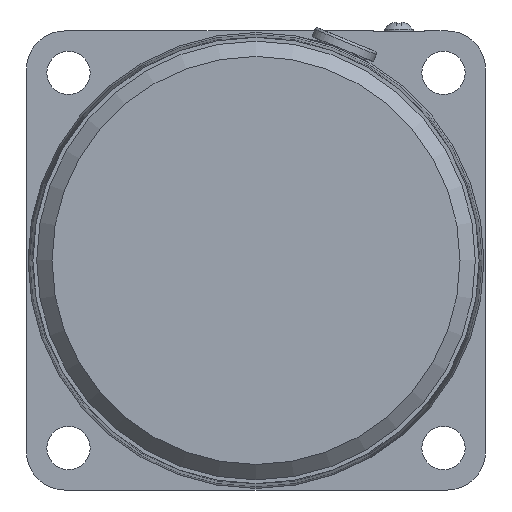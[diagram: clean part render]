
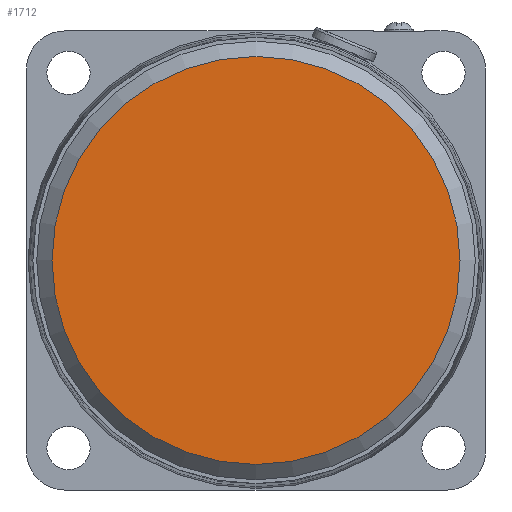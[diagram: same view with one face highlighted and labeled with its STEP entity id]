
A CAD part, left-side view. The second image highlights one B-rep face of the part: STEP entity #1712.
In plain terms, the highlighted planar face has unit normal (-1, 0, 0).
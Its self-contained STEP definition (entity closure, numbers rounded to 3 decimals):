
#172=CIRCLE('',#1871,40.);
#269=FACE_OUTER_BOUND('',#396,.T.);
#396=EDGE_LOOP('',(#1469));
#802=VERTEX_POINT('',#2946);
#1023=EDGE_CURVE('',#802,#802,#172,.T.);
#1469=ORIENTED_EDGE('',*,*,#1023,.F.);
#1527=PLANE('',#1881);
#1712=ADVANCED_FACE('',(#269),#1527,.T.);
#1871=AXIS2_PLACEMENT_3D('',#2947,#2318,#2319);
#1881=AXIS2_PLACEMENT_3D('',#2961,#2338,#2339);
#2318=DIRECTION('center_axis',(1.,0.,0.));
#2319=DIRECTION('ref_axis',(0.,1.,0.));
#2338=DIRECTION('center_axis',(-1.,0.,0.));
#2339=DIRECTION('ref_axis',(0.,0.,1.));
#2946=CARTESIAN_POINT('',(0.,40.,0.));
#2947=CARTESIAN_POINT('Origin',(0.,0.,
0.));
#2961=CARTESIAN_POINT('Origin',(0.,20.,
0.));
